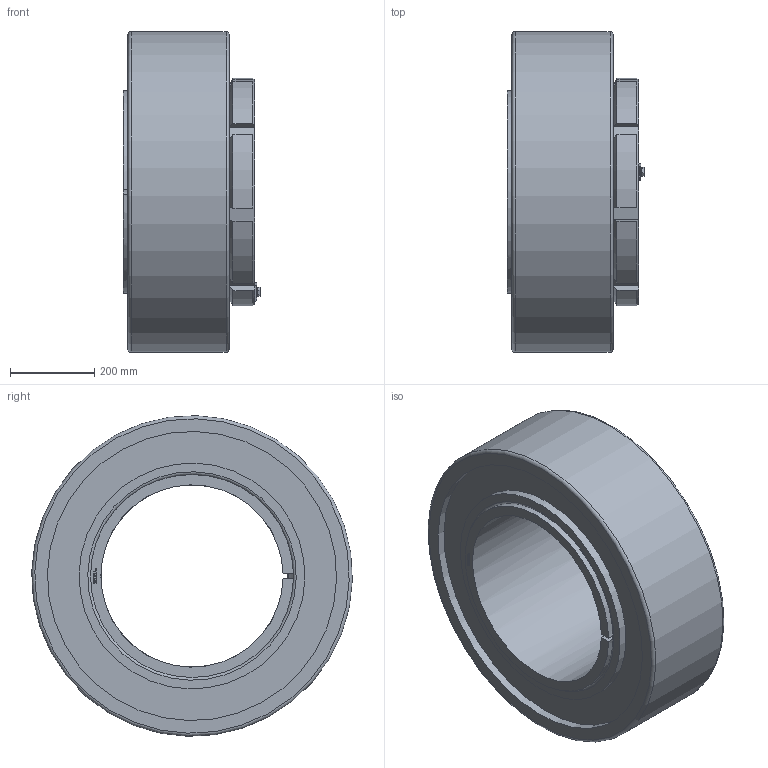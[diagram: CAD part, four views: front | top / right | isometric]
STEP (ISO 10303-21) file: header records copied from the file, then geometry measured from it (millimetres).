
FILE_DESCRIPTION( ( 'STEP AP203' ), ' ' );
FILE_NAME( 'p:/temp/worker_352/4084_4976/app_90_02016102823134946914012192d056f_000000_00_00_000000/format_0/BGL HE 3192 TL+23192K.stp', '2016-10-28T21:13:51', ( '' ), ( '' ), ' ', 'PARTsolutions', ' ' );
FILE_SCHEMA( ( 'CONFIG_CONTROL_DESIGN' ) );
Length unit declared in the file: millimetre
Products named in the file (6): BGL HE 3192 TL+23192K; _BGLHE3192TLB; _BGL HM 3092; _BGLHE3192TL+HE-23192K; _BGL MS 3088-BGL MS 3092part; _BGL MS 3088-BGL MS 3092HHS
Assembly tree (5 placements, depth 2):
  BGL HE 3192 TL+23192K
    _BGLHE3192TLB
    _BGL HM 3092
    _BGLHE3192TL+HE-23192K
    _BGL MS 3088-BGL MS 3092part
    _BGL MS 3088-BGL MS 3092HHS
Bounding box: 325.78 x 759.74 x 759.74 mm (x, y, z)
Volume: 72843376.8 mm3; surface area: 2875006.3 mm2
Topology: 5 solids, 5 shells, 351 faces, 899 edges, 589 vertices
Faces by surface type: plane 230, cylinder 79, cone 38, torus 4
Full cylindrical faces by diameter (mm): 12 x9, 14 x1, 21.1 x1, 455 x1, 535 x2, 685 x2, 760 x1
Entity records: 10774 total; most frequent: CARTESIAN_POINT 2116, DIRECTION 1729, ORIENTED_EDGE 1726, EDGE_CURVE 863, VERTEX_POINT 586, AXIS2_PLACEMENT_3D 577, LINE 575, VECTOR 575
